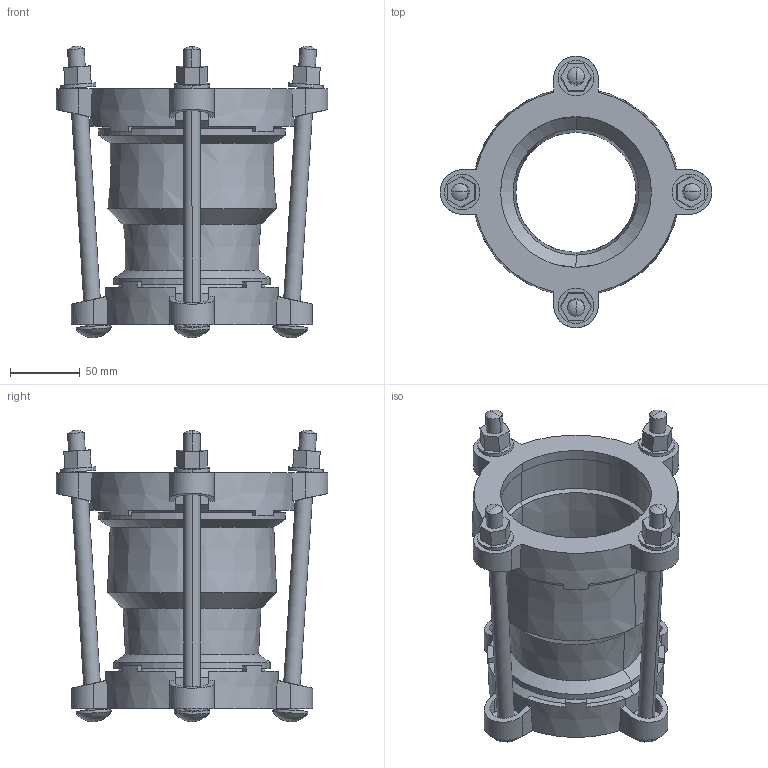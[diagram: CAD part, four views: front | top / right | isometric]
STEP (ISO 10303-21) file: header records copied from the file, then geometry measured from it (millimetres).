
FILE_DESCRIPTION((''),'2;1');
FILE_NAME('BIM_12395_3','2018-10-09T',('MReader'),(''),'CREO PARAMETRIC BY PTC INC, 2016130','CREO PARAMETRIC BY PTC INC, 2016130','');
FILE_SCHEMA(('CONFIG_CONTROL_DESIGN'));
Length unit declared in the file: millimetre
Products named in the file (1): BIM_12395_3
Bounding box: 195.5 x 195.5 x 209.56 mm (x, y, z)
Volume: 733636.4 mm3; surface area: 227219.9 mm2
Topology: 2 solids, 2 shells, 282 faces, 732 edges, 460 vertices
Faces by surface type: plane 122, cylinder 84, cone 60, sphere 16
Entity records: 9187 total; most frequent: CARTESIAN_POINT 2385, ORIENTED_EDGE 1432, DIRECTION 1380, EDGE_CURVE 716, AXIS2_PLACEMENT_3D 526, VERTEX_POINT 460, VECTOR 328, LINE 328
